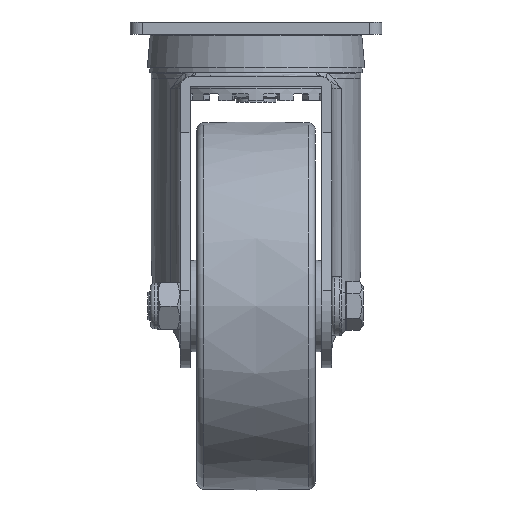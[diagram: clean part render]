
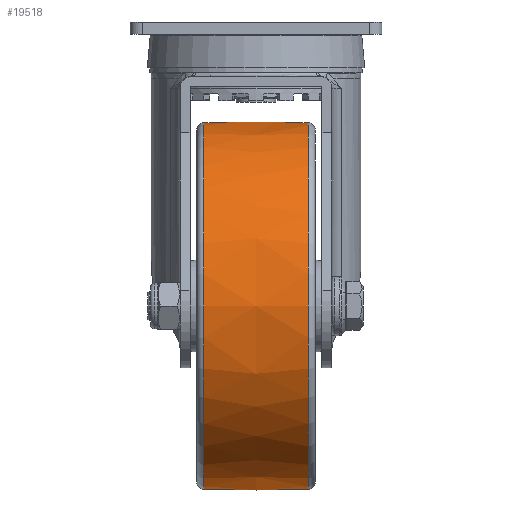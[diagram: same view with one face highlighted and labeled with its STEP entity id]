
A CAD part, left-side view. The second image highlights one B-rep face of the part: STEP entity #19518.
In plain terms, the highlighted free-form (B-spline) face has degree [2, 2] with [3, 9] control points.
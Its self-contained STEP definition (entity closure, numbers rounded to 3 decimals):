
#15=(
BOUNDED_SURFACE()
B_SPLINE_SURFACE(2,2,((#36344,#36345,#36346,#36347,#36348,#36349,#36350,
#36351,#36352),(#36353,#36354,#36355,#36356,#36357,#36358,#36359,#36360,
#36361),(#36362,#36363,#36364,#36365,#36366,#36367,#36368,#36369,#36370)),
 .UNSPECIFIED.,.F.,.T.,.F.)
B_SPLINE_SURFACE_WITH_KNOTS((3,3),(3,2,2,2,3),(-0.03,0.03),
(-3.142,-1.571,0.,1.571,3.142),
 .UNSPECIFIED.)
GEOMETRIC_REPRESENTATION_ITEM()
RATIONAL_B_SPLINE_SURFACE(((1.,0.707,1.,0.707,1.,
0.707,1.,0.707,1.),(1.,0.707,
1.,0.707,1.,0.707,
1.,0.707,1.),(1.,0.707,
1.,0.707,1.,0.707,1.,0.707,1.)))
REPRESENTATION_ITEM('')
SURFACE()
);
#5978=FACE_OUTER_BOUND('',#7088,.T.);
#7088=EDGE_LOOP('',(#17767,#17768,#17769,#17770,#17771,#17772));
#7381=CIRCLE('',#20725,74.182);
#7382=CIRCLE('',#20726,74.182);
#7384=CIRCLE('',#20728,700.);
#7385=CIRCLE('',#20729,74.182);
#7386=CIRCLE('',#20730,74.182);
#9260=VERTEX_POINT('',#36339);
#9261=VERTEX_POINT('',#36340);
#9262=VERTEX_POINT('',#36371);
#9263=VERTEX_POINT('',#36373);
#12096=EDGE_CURVE('',#9260,#9261,#7381,.T.);
#12097=EDGE_CURVE('',#9261,#9260,#7382,.T.);
#12099=EDGE_CURVE('',#9260,#9262,#7384,.T.);
#12100=EDGE_CURVE('',#9263,#9262,#7385,.T.);
#12101=EDGE_CURVE('',#9262,#9263,#7386,.T.);
#17767=ORIENTED_EDGE('',*,*,#12096,.T.);
#17768=ORIENTED_EDGE('',*,*,#12097,.T.);
#17769=ORIENTED_EDGE('',*,*,#12099,.T.);
#17770=ORIENTED_EDGE('',*,*,#12100,.F.);
#17771=ORIENTED_EDGE('',*,*,#12101,.F.);
#17772=ORIENTED_EDGE('',*,*,#12099,.F.);
#19518=ADVANCED_FACE('',(#5978),#15,.F.);
#20725=AXIS2_PLACEMENT_3D('',#36341,#25096,#25097);
#20726=AXIS2_PLACEMENT_3D('',#36342,#25098,#25099);
#20728=AXIS2_PLACEMENT_3D('',#36372,#25102,#25103);
#20729=AXIS2_PLACEMENT_3D('',#36374,#25104,#25105);
#20730=AXIS2_PLACEMENT_3D('',#36375,#25106,#25107);
#25096=DIRECTION('center_axis',(0.,-1.,0.));
#25097=DIRECTION('ref_axis',(0.,0.,
1.));
#25098=DIRECTION('center_axis',(0.,-1.,0.));
#25099=DIRECTION('ref_axis',(0.,0.,
1.));
#25102=DIRECTION('center_axis',(1.,0.,0.));
#25103=DIRECTION('ref_axis',(0.,0.,
1.));
#25104=DIRECTION('center_axis',(0.,-1.,0.));
#25105=DIRECTION('ref_axis',(0.,0.,
1.));
#25106=DIRECTION('center_axis',(0.,-1.,0.));
#25107=DIRECTION('ref_axis',(0.,0.,
1.));
#36339=CARTESIAN_POINT('',(-55.,21.09,-40.818));
#36340=CARTESIAN_POINT('',(-55.,21.09,-189.182));
#36341=CARTESIAN_POINT('Origin',(-55.,21.09,-115.));
#36342=CARTESIAN_POINT('Origin',(-55.,21.09,-115.));
#36344=CARTESIAN_POINT('Ctrl Pts',(-55.,21.09,-40.818));
#36345=CARTESIAN_POINT('Ctrl Pts',(-129.182,21.09,-40.818));
#36346=CARTESIAN_POINT('Ctrl Pts',(-129.182,21.09,-115.));
#36347=CARTESIAN_POINT('Ctrl Pts',(-129.182,21.09,-189.182));
#36348=CARTESIAN_POINT('Ctrl Pts',(-55.,21.09,-189.182));
#36349=CARTESIAN_POINT('Ctrl Pts',(19.182,21.09,-189.182));
#36350=CARTESIAN_POINT('Ctrl Pts',(19.182,21.09,-115.));
#36351=CARTESIAN_POINT('Ctrl Pts',(19.182,21.09,-40.818));
#36352=CARTESIAN_POINT('Ctrl Pts',(-55.,21.09,-40.818));
#36353=CARTESIAN_POINT('Ctrl Pts',(-55.,0.,
-40.182));
#36354=CARTESIAN_POINT('Ctrl Pts',(-129.818,0.,
-40.182));
#36355=CARTESIAN_POINT('Ctrl Pts',(-129.818,0.,
-115.));
#36356=CARTESIAN_POINT('Ctrl Pts',(-129.818,0.,
-189.818));
#36357=CARTESIAN_POINT('Ctrl Pts',(-55.,0.,
-189.818));
#36358=CARTESIAN_POINT('Ctrl Pts',(19.818,0.,
-189.818));
#36359=CARTESIAN_POINT('Ctrl Pts',(19.818,0.,
-115.));
#36360=CARTESIAN_POINT('Ctrl Pts',(19.818,0.,
-40.182));
#36361=CARTESIAN_POINT('Ctrl Pts',(-55.,0.,
-40.182));
#36362=CARTESIAN_POINT('Ctrl Pts',(-55.,-21.09,-40.818));
#36363=CARTESIAN_POINT('Ctrl Pts',(-129.182,-21.09,
-40.818));
#36364=CARTESIAN_POINT('Ctrl Pts',(-129.182,-21.09,-115.));
#36365=CARTESIAN_POINT('Ctrl Pts',(-129.182,-21.09,-189.182));
#36366=CARTESIAN_POINT('Ctrl Pts',(-55.,-21.09,-189.182));
#36367=CARTESIAN_POINT('Ctrl Pts',(19.182,-21.09,-189.182));
#36368=CARTESIAN_POINT('Ctrl Pts',(19.182,-21.09,-115.));
#36369=CARTESIAN_POINT('Ctrl Pts',(19.182,-21.09,-40.818));
#36370=CARTESIAN_POINT('Ctrl Pts',(-55.,-21.09,-40.818));
#36371=CARTESIAN_POINT('',(-55.,-21.09,-40.818));
#36372=CARTESIAN_POINT('Origin',(-55.,0.,
-740.5));
#36373=CARTESIAN_POINT('',(-55.,-21.09,-189.182));
#36374=CARTESIAN_POINT('Origin',(-55.,-21.09,-115.));
#36375=CARTESIAN_POINT('Origin',(-55.,-21.09,-115.));
